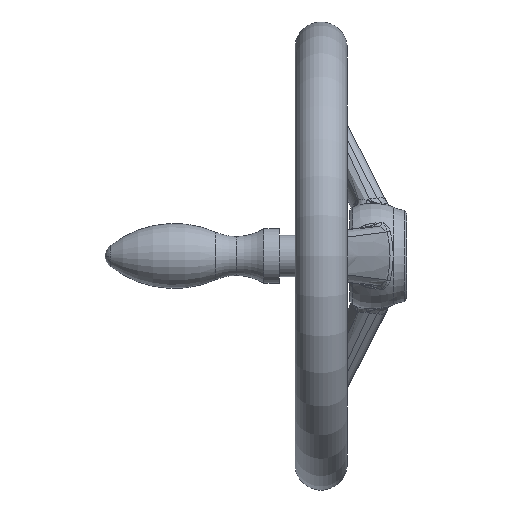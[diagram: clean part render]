
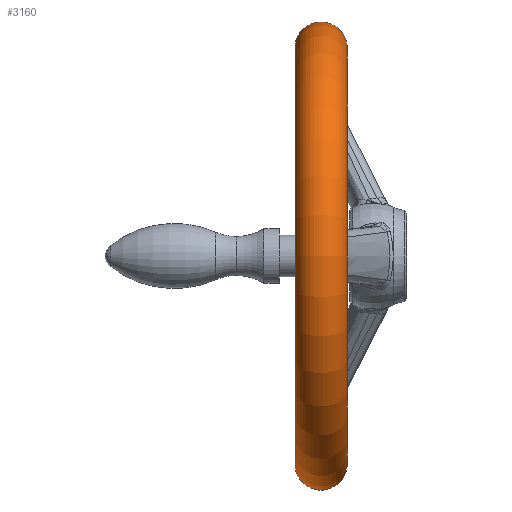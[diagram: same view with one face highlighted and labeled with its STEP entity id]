
A CAD part, left-side view. The second image highlights one B-rep face of the part: STEP entity #3160.
In plain terms, the highlighted toroidal (fillet/blend) face has major radius 79.944 mm and minor radius 10.056 mm.
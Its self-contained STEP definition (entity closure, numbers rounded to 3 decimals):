
#3150 = EDGE_LOOP ( 'NONE', ( #19927, #19919, #14906, #14903 ) ) ;
#3160 = ADVANCED_FACE ( 'NONE', ( #19211 ), #19219, .T. ) ;
#3230 = VERTEX_POINT ( 'NONE', #19321 ) ;
#3235 = EDGE_CURVE ( 'NONE', #3230, #3236, #19368, .T. ) ;
#3236 = VERTEX_POINT ( 'NONE', #19314 ) ;
#3263 = VERTEX_POINT ( 'NONE', #19383 ) ;
#3264 = VERTEX_POINT ( 'NONE', #19393 ) ;
#3304 = EDGE_CURVE ( 'NONE', #3264, #3263, #19486, .T. ) ;
#3337 = EDGE_CURVE ( 'NONE', #3230, #3264, #19500, .T. ) ;
#3383 = EDGE_CURVE ( 'NONE', #3236, #3263, #19619, .T. ) ;
#14903 = ORIENTED_EDGE ( 'NONE', *, *, #3304, .F. ) ;
#14906 = ORIENTED_EDGE ( 'NONE', *, *, #3383, .T. ) ;
#19200 = DIRECTION ( 'NONE',  ( 0., 0., -1. ) ) ;
#19211 = FACE_OUTER_BOUND ( 'NONE', #3150, .T. ) ;
#19212 = DIRECTION ( 'NONE',  ( 0., -1., 0. ) ) ;
#19213 = CARTESIAN_POINT ( 'NONE',  ( 0., 33., 0. ) ) ;
#19219 = TOROIDAL_SURFACE ( 'NONE', #19225, 79.944, 10.056 ) ;
#19225 = AXIS2_PLACEMENT_3D ( 'NONE', #19213, #19212, #19200 ) ;
#19313 = CARTESIAN_POINT ( 'NONE',  ( 0., 43., 0. ) ) ;
#19314 = CARTESIAN_POINT ( 'NONE',  ( 0., 43., -81. ) ) ;
#19321 = CARTESIAN_POINT ( 'NONE',  ( 0., 43., 81. ) ) ;
#19365 = DIRECTION ( 'NONE',  ( 0., 0., -1. ) ) ;
#19366 = DIRECTION ( 'NONE',  ( 0., -1., 0. ) ) ;
#19367 = AXIS2_PLACEMENT_3D ( 'NONE', #19313, #19366, #19365 ) ;
#19368 = CIRCLE ( 'NONE', #19367, 81. ) ;
#19383 = CARTESIAN_POINT ( 'NONE',  ( 0., 23., -81. ) ) ;
#19393 = CARTESIAN_POINT ( 'NONE',  ( 0., 23., 81. ) ) ;
#19438 = CARTESIAN_POINT ( 'NONE',  ( 0., 23., 0. ) ) ;
#19482 = DIRECTION ( 'NONE',  ( 0., 0., -1. ) ) ;
#19483 = DIRECTION ( 'NONE',  ( 0., -1., 0. ) ) ;
#19484 = AXIS2_PLACEMENT_3D ( 'NONE', #19438, #19483, #19482 ) ;
#19486 = CIRCLE ( 'NONE', #19484, 81. ) ;
#19500 = CIRCLE ( 'NONE', #19547, 10.056 ) ;
#19543 = DIRECTION ( 'NONE',  ( 0., 0., -1. ) ) ;
#19544 = DIRECTION ( 'NONE',  ( 1., 0., 0. ) ) ;
#19545 = CARTESIAN_POINT ( 'NONE',  ( 0., 33., 79.944 ) ) ;
#19547 = AXIS2_PLACEMENT_3D ( 'NONE', #19545, #19544, #19543 ) ;
#19609 = DIRECTION ( 'NONE',  ( 0., 0., 1. ) ) ;
#19610 = DIRECTION ( 'NONE',  ( -1., 0., 0. ) ) ;
#19611 = AXIS2_PLACEMENT_3D ( 'NONE', #19613, #19610, #19609 ) ;
#19613 = CARTESIAN_POINT ( 'NONE',  ( 0., 33., -79.944 ) ) ;
#19619 = CIRCLE ( 'NONE', #19611, 10.056 ) ;
#19919 = ORIENTED_EDGE ( 'NONE', *, *, #3235, .T. ) ;
#19927 = ORIENTED_EDGE ( 'NONE', *, *, #3337, .F. ) ;
